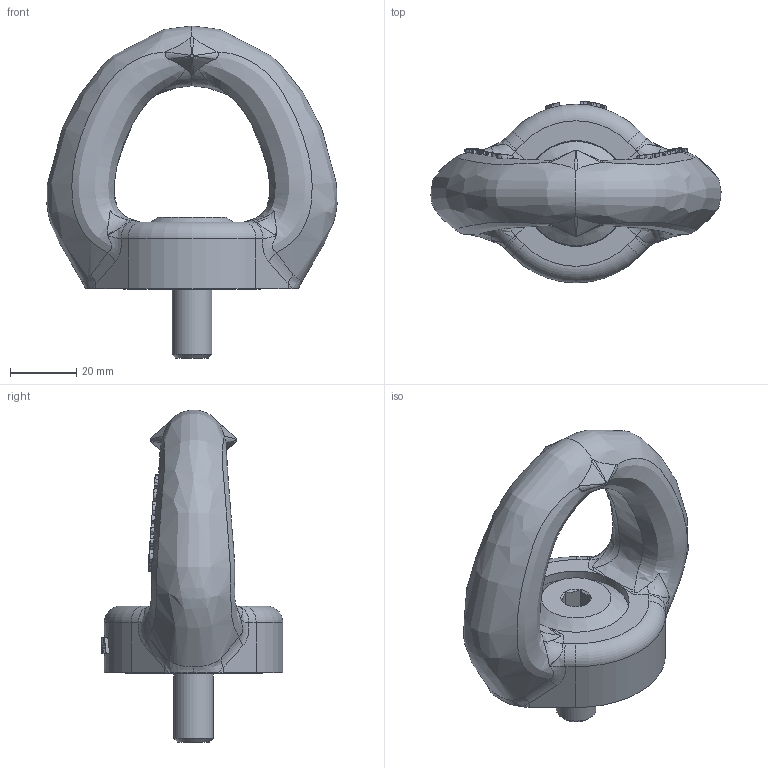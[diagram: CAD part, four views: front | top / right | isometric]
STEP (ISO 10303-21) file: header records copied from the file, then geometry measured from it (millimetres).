
FILE_DESCRIPTION(/* description */ (''),/* implementation_level */ '2;1');
FILE_NAME(/* name */ 'W:\CODIPRO\DOCUMENTS\Plans A NE PAS DIFFUSER !!!\Inventor\Standard Inventor\Produit Fini Inventor\SS_SEB\SS SEB M12.stp',/* time_stamp */ '2017-10-06T08:18:54+02:00',/* author */ ('rklenes'),/* organization */ (''),/* preprocessor_version */ 'ST-DEVELOPER v16.5',/* originating_system */ 'Autodesk Inventor 2017',/* authorisation */ '');
FILE_SCHEMA (('AUTOMOTIVE_DESIGN { 1 0 10303 214 3 1 1 }'));
Length unit declared in the file: millimetre
Products named in the file (4): SS SEB M12; SEM_2; SS_SEA_M12X35; SS_SEE_M12A
Assembly tree (3 placements, depth 2):
  SS SEB M12
    SEM_2
    SS_SEA_M12X35
    SS_SEE_M12A
Bounding box: 87.76 x 54.96 x 100.4 mm (x, y, z)
Volume: 102630.4 mm3; surface area: 26165 mm2
Topology: 3 solids, 3 shells, 414 faces, 1077 edges, 694 vertices
Faces by surface type: bspline 210, plane 143, cylinder 31, cone 24, torus 6
Full cylindrical faces by diameter (mm): 2 x1, 12 x3, 12.2 x1, 26 x3, 32 x2, 42 x2
Entity records: 25490 total; most frequent: CARTESIAN_POINT 16604, ORIENTED_EDGE 2064, DIRECTION 1307, EDGE_CURVE 1032, VERTEX_POINT 687, AXIS2_PLACEMENT_3D 493, EDGE_LOOP 483, B_SPLINE_CURVE_WITH_KNOTS 423
